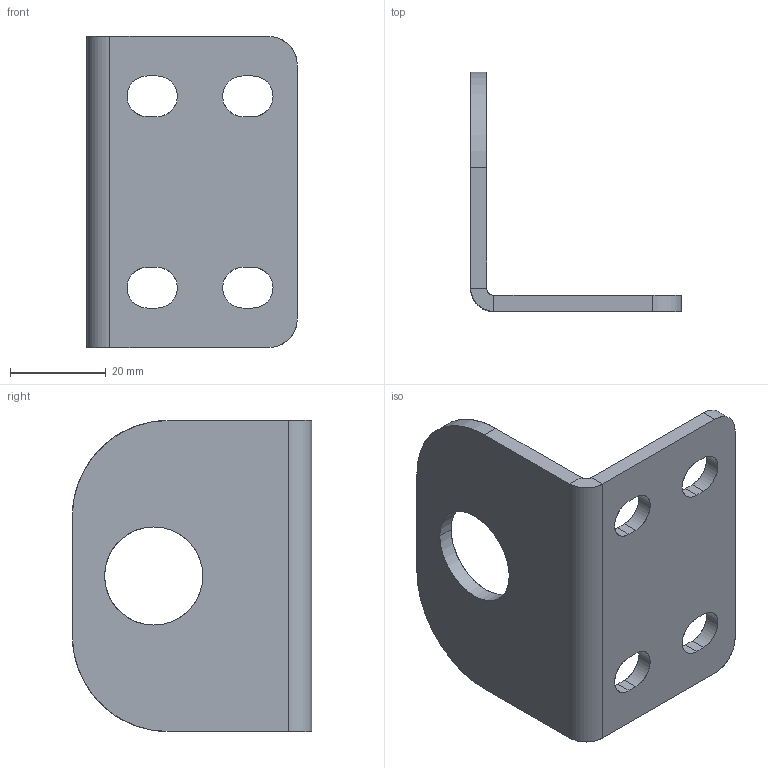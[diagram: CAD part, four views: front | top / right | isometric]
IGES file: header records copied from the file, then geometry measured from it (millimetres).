
Start section: SolidWorks IGES file using analytic representation for surfaces
Global section: file name: C:\Projetos\Componentes\02.Base\02.10045.IGS; native system: SolidWorks 2012; preprocessor: SolidWorks 2012; author: Ricardo; date: 121008.143045; units: millimetre
Bounding box: 44 x 50 x 65 mm (x, y, z)
Surface area: 11569.1 mm2 (no closed solid volume)
Topology: 0 solids, 0 shells, 36 faces, 604 edges, 604 vertices
Faces by surface type: bspline 20, revolution 16
